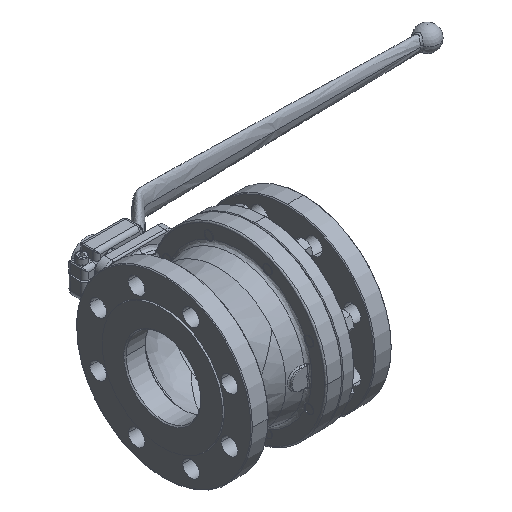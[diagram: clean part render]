
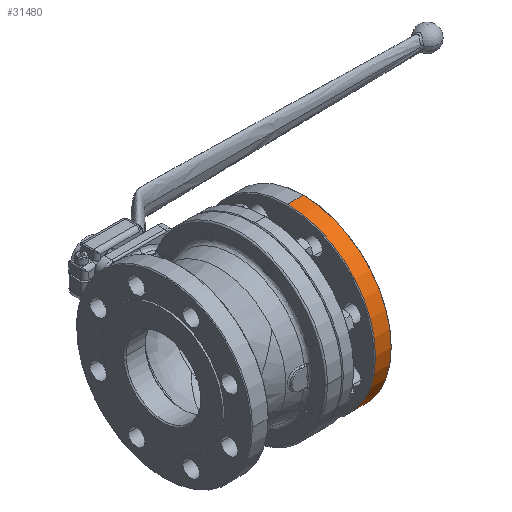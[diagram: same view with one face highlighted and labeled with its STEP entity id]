
A CAD part, isometric view. The second image highlights one B-rep face of the part: STEP entity #31480.
In plain terms, the highlighted cylindrical face has radius 117.5 mm (diameter 235 mm), a partial arc.
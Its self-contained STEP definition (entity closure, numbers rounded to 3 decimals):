
#341 = VERTEX_POINT ( 'NONE', #872 ) ;
#759 = CARTESIAN_POINT ( 'NONE',  ( 0., 23.75, 0. ) ) ;
#829 = CIRCLE ( 'NONE', #1713, 117.5 ) ;
#872 = CARTESIAN_POINT ( 'NONE',  ( 0., 34.25, -117.5 ) ) ;
#1713 = AXIS2_PLACEMENT_3D ( 'NONE', #46366, #17693, #17043 ) ;
#2653 = AXIS2_PLACEMENT_3D ( 'NONE', #16043, #41670, #41059 ) ;
#5548 = ORIENTED_EDGE ( 'NONE', *, *, #31721, .T. ) ;
#7224 = VERTEX_POINT ( 'NONE', #45803 ) ;
#10600 = EDGE_CURVE ( 'NONE', #38474, #7224, #829, .T. ) ;
#11443 = DIRECTION ( 'NONE',  ( 0., 0., 1. ) ) ;
#13625 = CARTESIAN_POINT ( 'NONE',  ( 0., 23.75, 117.5 ) ) ;
#14885 = AXIS2_PLACEMENT_3D ( 'NONE', #759, #29562, #11443 ) ;
#15283 = VECTOR ( 'NONE', #32189, 1000. ) ;
#16043 = CARTESIAN_POINT ( 'NONE',  ( 0., 34.25, 0. ) ) ;
#16579 = ORIENTED_EDGE ( 'NONE', *, *, #18619, .T. ) ;
#16764 = CARTESIAN_POINT ( 'NONE',  ( 0., 13.25, 117.5 ) ) ;
#17043 = DIRECTION ( 'NONE',  ( 0., 0., -1. ) ) ;
#17693 = DIRECTION ( 'NONE',  ( 0., -1., 0. ) ) ;
#18619 = EDGE_CURVE ( 'NONE', #38474, #40393, #21053, .T. ) ;
#19872 = EDGE_CURVE ( 'NONE', #7224, #341, #24440, .T. ) ;
#20950 = CARTESIAN_POINT ( 'NONE',  ( 0., 34.25, 117.5 ) ) ;
#20997 = DIRECTION ( 'NONE',  ( 0., 1., 0. ) ) ;
#21053 = LINE ( 'NONE', #13625, #15283 ) ;
#22267 = ORIENTED_EDGE ( 'NONE', *, *, #10600, .F. ) ;
#24440 = LINE ( 'NONE', #38762, #37634 ) ;
#27767 = ORIENTED_EDGE ( 'NONE', *, *, #19872, .F. ) ;
#29445 = CIRCLE ( 'NONE', #2653, 117.5 ) ;
#29562 = DIRECTION ( 'NONE',  ( 0., 1., 0. ) ) ;
#31480 = ADVANCED_FACE ( 'NONE', ( #46050 ), #32866, .T. ) ;
#31721 = EDGE_CURVE ( 'NONE', #40393, #341, #29445, .T. ) ;
#32189 = DIRECTION ( 'NONE',  ( 0., 1., 0. ) ) ;
#32866 = CYLINDRICAL_SURFACE ( 'NONE', #14885, 117.5 ) ;
#37634 = VECTOR ( 'NONE', #20997, 1000. ) ;
#38474 = VERTEX_POINT ( 'NONE', #16764 ) ;
#38762 = CARTESIAN_POINT ( 'NONE',  ( 0., 23.75, -117.5 ) ) ;
#40393 = VERTEX_POINT ( 'NONE', #20950 ) ;
#41059 = DIRECTION ( 'NONE',  ( 0., 0., 1. ) ) ;
#41377 = EDGE_LOOP ( 'NONE', ( #27767, #22267, #16579, #5548 ) ) ;
#41670 = DIRECTION ( 'NONE',  ( 0., -1., 0. ) ) ;
#45803 = CARTESIAN_POINT ( 'NONE',  ( 0., 13.25, -117.5 ) ) ;
#46050 = FACE_OUTER_BOUND ( 'NONE', #41377, .T. ) ;
#46366 = CARTESIAN_POINT ( 'NONE',  ( 0., 13.25, 0. ) ) ;
